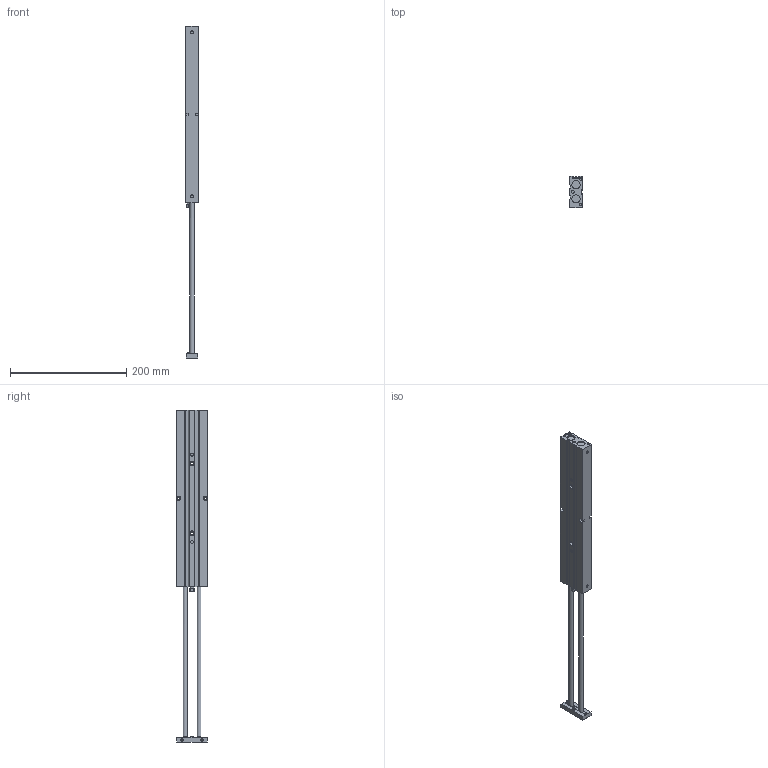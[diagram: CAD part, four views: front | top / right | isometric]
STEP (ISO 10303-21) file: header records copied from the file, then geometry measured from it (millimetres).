
FILE_DESCRIPTION((''),'2;1');
FILE_NAME('I:\3D電子目錄\氣缸\TD\TD16\TD16\TD16x250.stp','2007-08-06T09:38:23',('Administrator'),(''),'Autodesk Inventor 2008','Autodesk Inventor 2008','');
FILE_SCHEMA(('AUTOMOTIVE_DESIGN { 1 0 10303 214 1 1 1 1 }'));
Length unit declared in the file: millimetre
Products named in the file (1): TD16X250
Bounding box: 22 x 54 x 571 mm (x, y, z)
Volume: 358830.9 mm3; surface area: 82628.4 mm2
Topology: 1 solids, 3 shells, 179 faces, 465 edges, 304 vertices
Faces by surface type: plane 116, cylinder 42, bspline 12, cone 7, torus 2
Full cylindrical faces by diameter (mm): 4 x4, 4.5 x4, 5 x8, 6 x2, 7 x2, 8 x4, 14 x4
Entity records: 5819 total; most frequent: CARTESIAN_POINT 1627, ORIENTED_EDGE 824, DIRECTION 820, EDGE_CURVE 412, VERTEX_POINT 292, AXIS2_PLACEMENT_3D 274, VECTOR 272, LINE 272
